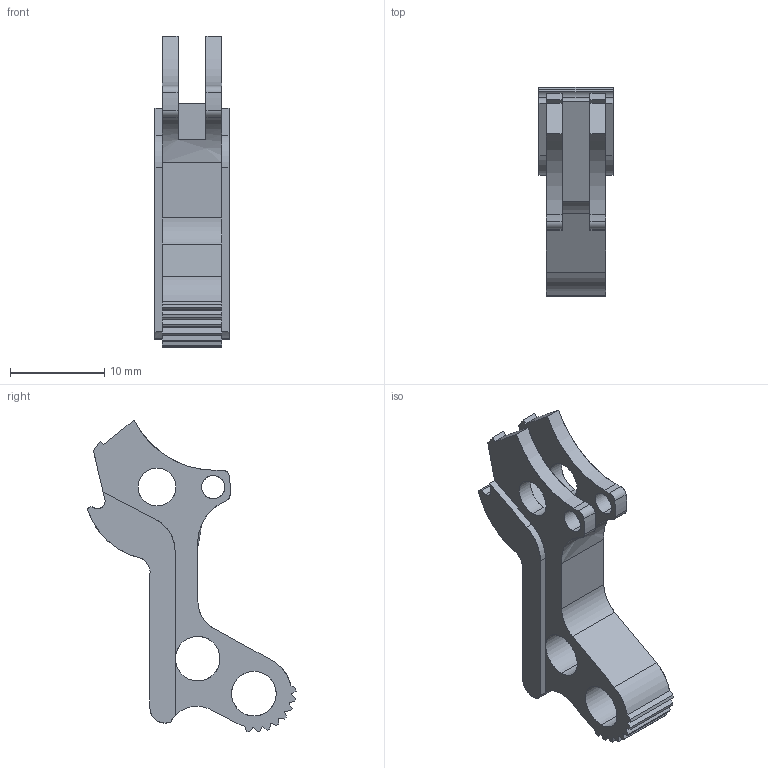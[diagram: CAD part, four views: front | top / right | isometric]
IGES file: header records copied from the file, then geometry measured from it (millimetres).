
Start section: SolidWorks IGES file using analytic representation for surfaces
Global section: file name: \\PSSILO\catalogs\CONTENTCENTRAL\Generic Competition Hammer\Cache\314ACCBE-046A-496D-A6D2-6687E33EFF40.IGS; native system: SolidWorks 2009; preprocessor: SolidWorks 2009; author: partstream; date: 090220.040754; units: inch
Bounding box: 7.85 x 22.13 x 33.07 mm (x, y, z)
Surface area: 1573.9 mm2 (no closed solid volume)
Topology: 0 solids, 0 shells, 90 faces, 1072 edges, 1072 vertices
Faces by surface type: bspline 53, revolution 37
